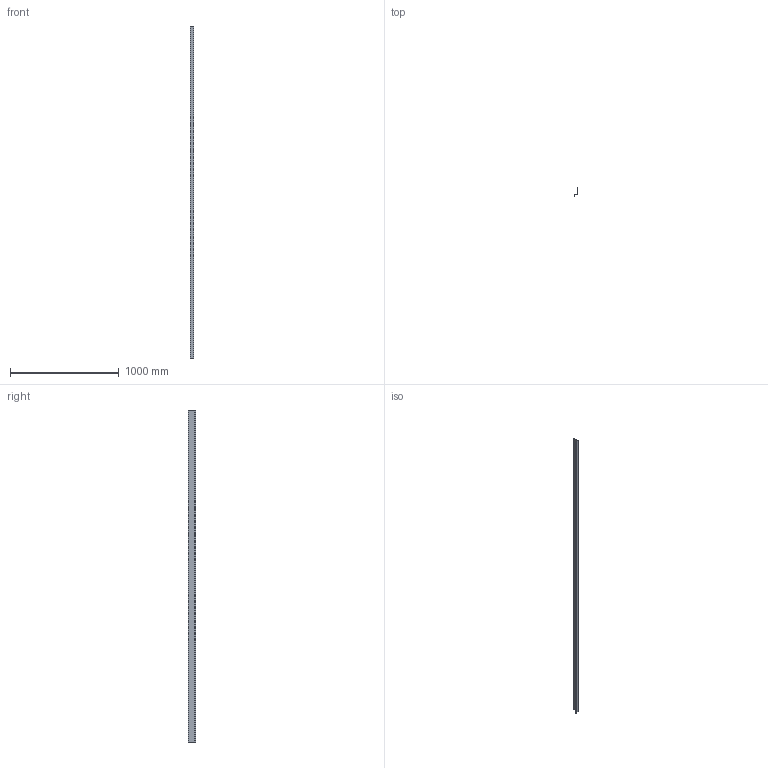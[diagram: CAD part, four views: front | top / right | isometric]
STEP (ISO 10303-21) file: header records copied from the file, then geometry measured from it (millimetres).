
FILE_DESCRIPTION(/* description */ (''),/* implementation_level */ '2;1');
FILE_NAME(/* name */ 'M12I (2-2).stp',/* time_stamp */ '2025-05-14T09:16:42-04:00',/* author */ ('gabrielle.gilbert'),/* organization */ (''),/* preprocessor_version */ 'ST-DEVELOPER v20',/* originating_system */ 'Autodesk Inventor 2025',/* authorisation */ '');
FILE_SCHEMA (('AUTOMOTIVE_DESIGN { 1 0 10303 214 3 1 1 }'));
Length unit declared in the file: inch
Products named in the file (1): M12I (2-2)
Bounding box: 32.79 x 69.27 x 3048 mm (x, y, z)
Volume: 140312.7 mm3; surface area: 620084 mm2
Topology: 1 solids, 1 shells, 14 faces, 36 edges, 24 vertices
Faces by surface type: plane 10, cylinder 4
Entity records: 473 total; most frequent: CARTESIAN_POINT 75, DIRECTION 74, ORIENTED_EDGE 72, EDGE_CURVE 36, LINE 28, VECTOR 28, VERTEX_POINT 24, AXIS2_PLACEMENT_3D 23
